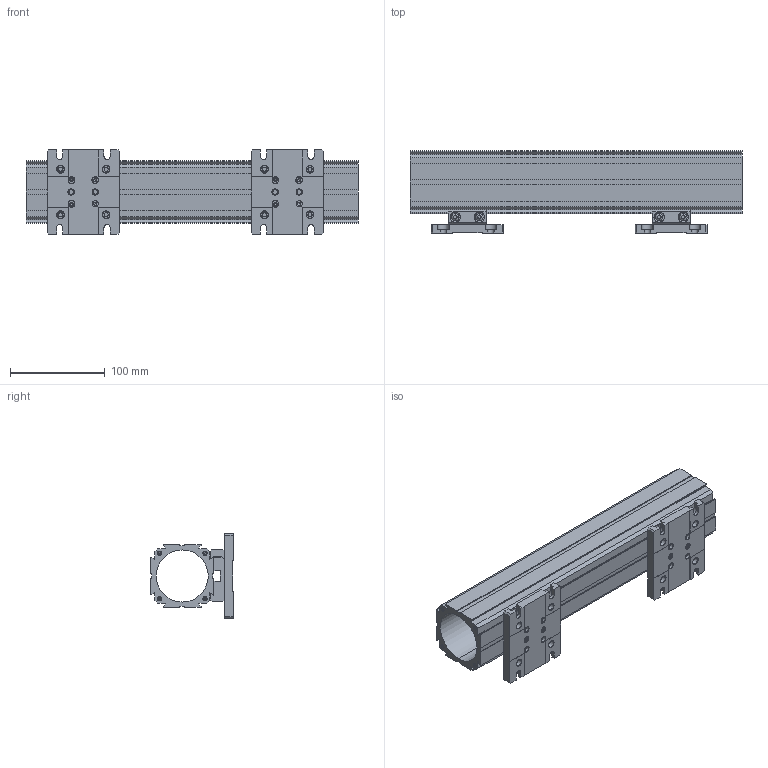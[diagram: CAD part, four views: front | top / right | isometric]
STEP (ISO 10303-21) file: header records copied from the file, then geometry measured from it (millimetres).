
FILE_DESCRIPTION((''),'2;1');
FILE_NAME('OPH-B350_ASM','2021-06-24T',('Administrator'),(''),'CREO PARAMETRIC BY PTC INC, 2015290','CREO PARAMETRIC BY PTC INC, 2015290','');
FILE_SCHEMA(('CONFIG_CONTROL_DESIGN'));
Products named in the file (8): M4X12_HP; WASHER_M4; OOP-MA_A1; OOP-MA_A2; OOP-MA_ASM; OPS-ML; OPH_A350; OPH-B350_ASM
Assembly tree (11 placements, depth 3):
  OPH-B350_ASM
    OOP-MA_ASM  x2
      M4X12_HP
      WASHER_M4
      OOP-MA_A1
      OOP-MA_A2
    OPS-ML  x2
    OPH_A350
Bounding box: 350 x 86.73 x 89.28 mm (x, y, z)
Volume: 690594.8 mm3; surface area: 225186.5 mm2
Topology: 15 solids, 15 shells, 1262 faces, 3620 edges, 2312 vertices
Faces by surface type: cylinder 476, plane 322, bspline 312, cone 132, extrusion 12, sphere 8
Entity records: 52683 total; most frequent: CARTESIAN_POINT 34572, ORIENTED_EDGE 4340, DIRECTION 2766, EDGE_CURVE 2170, VERTEX_POINT 1403, VECTOR 1052, LINE 1049, AXIS2_PLACEMENT_3D 857
